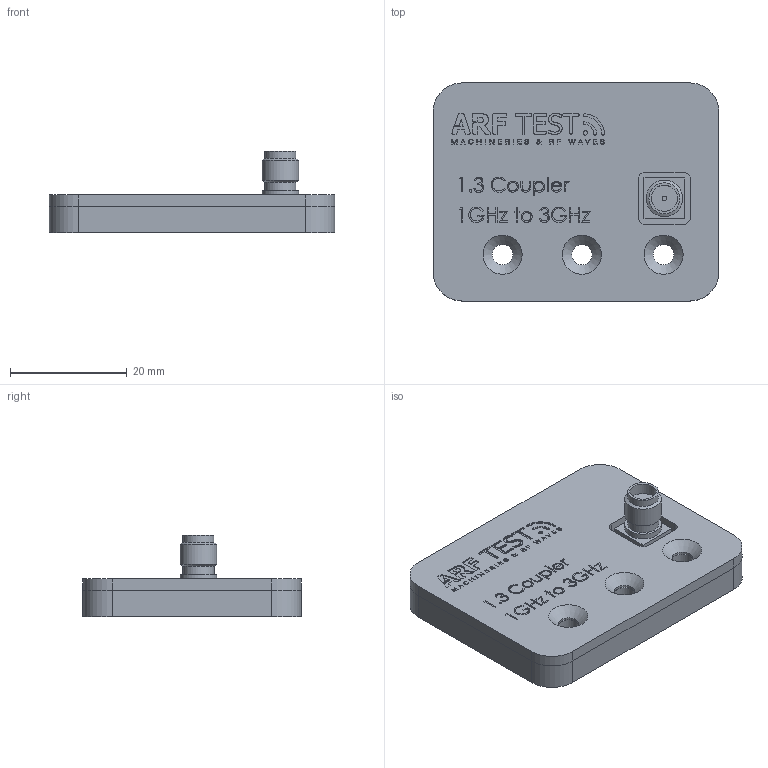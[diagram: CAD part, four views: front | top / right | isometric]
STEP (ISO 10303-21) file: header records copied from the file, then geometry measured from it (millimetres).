
FILE_DESCRIPTION (( 'STEP AP214' ), '1' );
FILE_NAME ('8118_010 (1Ghz-3Ghz).STEP', '2024-04-17T12:52:19', ( '' ), ( '' ), 'SwSTEP 2.0', 'SolidWorks 2015', '' );
FILE_SCHEMA (( 'AUTOMOTIVE_DESIGN' ));
Length unit declared in the file: millimetre
Products named in the file (13): 8118-706-B-Strip 1Ghz -3Ghz; 8118_010 (1Ghz-3Ghz); 8118_102; j01151a0701; 8118_100; 8118_076
Assembly tree (8 placements, depth 3):
  8118-706-B-Strip 1Ghz -3Ghz
  8118_010 (1Ghz-3Ghz)
    8118_076
      j01151a0701
  8118_102
  8118_100
  8118_010 (1Ghz-3Ghz)
    8118_076
      8118-706-B-Strip 1Ghz -3Ghz
      j01151a0701
    8118_100
    8118_102
      8118_102
Bounding box: 49 x 37.4 x 13.95 mm (x, y, z)
Volume: 11159.7 mm3; surface area: 12244.2 mm2
Topology: 4 solids, 4 shells, 1422 faces, 3999 edges, 2671 vertices
Faces by surface type: plane 698, cylinder 603, bspline 109, cone 12
Full cylindrical faces by diameter (mm): 0.726 x1, 0.75 x4, 0.8 x1, 0.85 x1, 1.3 x1, 2.5 x4, 3.05 x2, 3.1 x2, 3.5 x9, 4.5 x1, 5.3 x1, 5.34 x1, 6.25 x2
Entity records: 63344 total; most frequent: CARTESIAN_POINT 14530, ORIENTED_EDGE 7900, DIRECTION 7615, EDGE_CURVE 3950, VERTEX_POINT 2654, AXIS2_PLACEMENT_3D 2547, VECTOR 2521, LINE 2521
